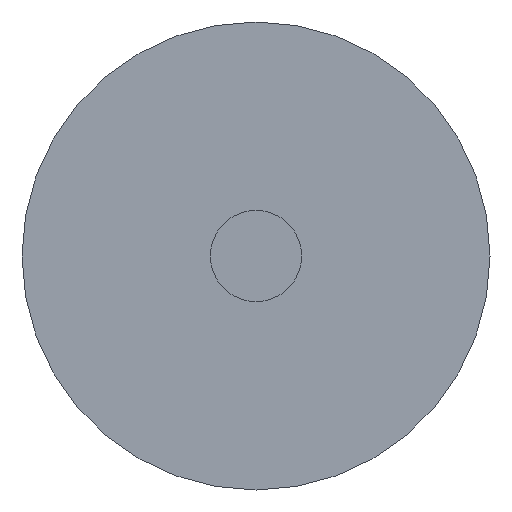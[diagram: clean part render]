
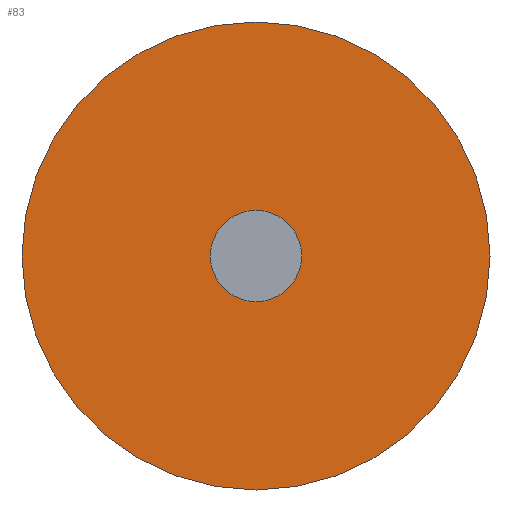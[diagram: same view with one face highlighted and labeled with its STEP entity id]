
A CAD part, front view. The second image highlights one B-rep face of the part: STEP entity #83.
In plain terms, the highlighted planar face has unit normal (0, -1, 0).
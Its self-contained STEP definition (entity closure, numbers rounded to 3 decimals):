
#83 = ADVANCED_FACE( '', ( #216, #217 ), #218, .F. );
#216 = FACE_BOUND( '', #470, .T. );
#217 = FACE_OUTER_BOUND( '', #471, .T. );
#218 = PLANE( '', #472 );
#470 = EDGE_LOOP( '', ( #862 ) );
#471 = EDGE_LOOP( '', ( #863 ) );
#472 = AXIS2_PLACEMENT_3D( '', #864, #865, #866 );
#862 = ORIENTED_EDGE( '', *, *, #1869, .F. );
#863 = ORIENTED_EDGE( '', *, *, #1870, .T. );
#864 = CARTESIAN_POINT( '', ( 20.5, 0., 0. ) );
#865 = DIRECTION( '', ( 0., 1., 0. ) );
#866 = DIRECTION( '', ( 0., 0., 1. ) );
#1869 = EDGE_CURVE( '', #2324, #2324, #2325, .T. );
#1870 = EDGE_CURVE( '', #2326, #2326, #2327, .T. );
#2324 = VERTEX_POINT( '', #3443 );
#2325 = CIRCLE( '', #3444, 4. );
#2326 = VERTEX_POINT( '', #3445 );
#2327 = CIRCLE( '', #3446, 20.5 );
#3443 = CARTESIAN_POINT( '', ( 0., 0., -4. ) );
#3444 = AXIS2_PLACEMENT_3D( '', #3993, #3994, #3995 );
#3445 = CARTESIAN_POINT( '', ( 0., 0., -20.5 ) );
#3446 = AXIS2_PLACEMENT_3D( '', #3996, #3997, #3998 );
#3993 = CARTESIAN_POINT( '', ( 0., 0., 0. ) );
#3994 = DIRECTION( '', ( 0., -1., 0. ) );
#3995 = DIRECTION( '', ( 0., 0., -1. ) );
#3996 = CARTESIAN_POINT( '', ( 0., 0., 0. ) );
#3997 = DIRECTION( '', ( 0., -1., 0. ) );
#3998 = DIRECTION( '', ( 0., 0., -1. ) );
